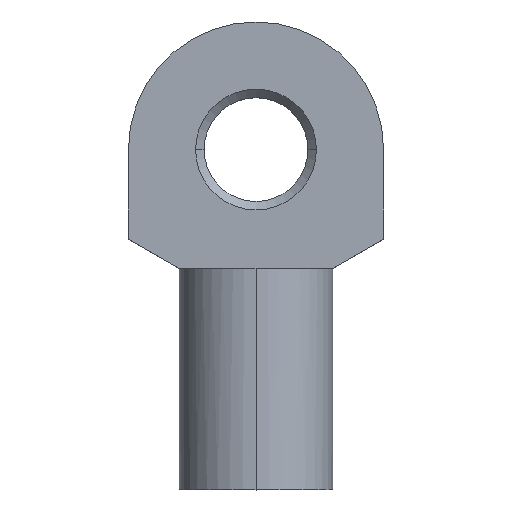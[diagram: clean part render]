
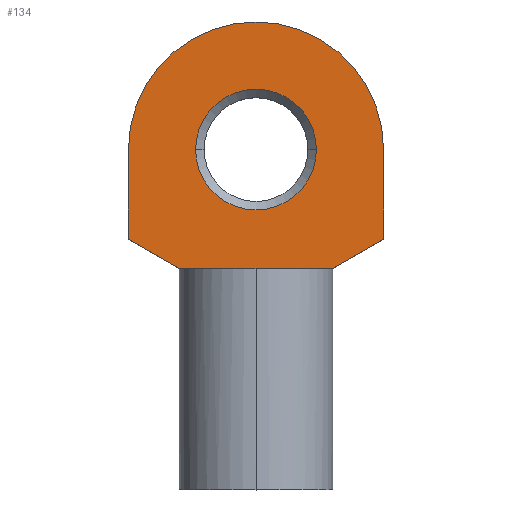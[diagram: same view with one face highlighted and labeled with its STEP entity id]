
A CAD part, top view. The second image highlights one B-rep face of the part: STEP entity #134.
In plain terms, the highlighted planar face has unit normal (0, 0, 1).
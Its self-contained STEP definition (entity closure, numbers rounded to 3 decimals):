
#4 = VERTEX_POINT ( 'NONE', #87 ) ;
#41 = ORIENTED_EDGE ( 'NONE', *, *, #571, .T. ) ;
#43 = ORIENTED_EDGE ( 'NONE', *, *, #133, .T. ) ;
#47 = EDGE_CURVE ( 'NONE', #513, #393, #314, .T. ) ;
#54 = DIRECTION ( 'NONE',  ( 1., 0., 0. ) ) ;
#76 = EDGE_CURVE ( 'NONE', #281, #513, #676, .T. ) ;
#87 = CARTESIAN_POINT ( 'NONE',  ( 3.55, 20., 1.5 ) ) ;
#89 = DIRECTION ( 'NONE',  ( 0., 0., 1. ) ) ;
#92 = DIRECTION ( 'NONE',  ( 0., 0., -1. ) ) ;
#114 = CARTESIAN_POINT ( 'NONE',  ( 0., 20., 1.5 ) ) ;
#131 = VERTEX_POINT ( 'NONE', #215 ) ;
#133 = EDGE_CURVE ( 'NONE', #678, #131, #807, .T. ) ;
#134 = ADVANCED_FACE ( 'NONE', ( #456, #357 ), #218, .T. ) ;
#136 = CARTESIAN_POINT ( 'NONE',  ( -7.5, 20., 1.5 ) ) ;
#149 = VECTOR ( 'NONE', #388, 1000. ) ;
#155 = CARTESIAN_POINT ( 'NONE',  ( -4.5, 13., 1.5 ) ) ;
#170 = AXIS2_PLACEMENT_3D ( 'NONE', #114, #599, #532 ) ;
#176 = EDGE_CURVE ( 'NONE', #230, #281, #510, .T. ) ;
#193 = VECTOR ( 'NONE', #640, 1000. ) ;
#201 = EDGE_CURVE ( 'NONE', #393, #236, #336, .T. ) ;
#215 = CARTESIAN_POINT ( 'NONE',  ( -7.5, 20., 1.5 ) ) ;
#218 = PLANE ( 'NONE',  #496 ) ;
#230 = VERTEX_POINT ( 'NONE', #614 ) ;
#236 = VERTEX_POINT ( 'NONE', #691 ) ;
#265 = DIRECTION ( 'NONE',  ( 1., 0., 0. ) ) ;
#267 = VECTOR ( 'NONE', #507, 1000. ) ;
#270 = EDGE_LOOP ( 'NONE', ( #504, #430 ) ) ;
#272 = DIRECTION ( 'NONE',  ( 0., 0., 1. ) ) ;
#281 = VERTEX_POINT ( 'NONE', #505 ) ;
#290 = ORIENTED_EDGE ( 'NONE', *, *, #303, .T. ) ;
#303 = EDGE_CURVE ( 'NONE', #338, #678, #732, .T. ) ;
#313 = LINE ( 'NONE', #759, #149 ) ;
#314 = LINE ( 'NONE', #706, #193 ) ;
#322 = DIRECTION ( 'NONE',  ( 0., 1., 0. ) ) ;
#336 = LINE ( 'NONE', #736, #636 ) ;
#338 = VERTEX_POINT ( 'NONE', #398 ) ;
#357 = FACE_OUTER_BOUND ( 'NONE', #730, .T. ) ;
#363 = CARTESIAN_POINT ( 'NONE',  ( -3.55, 20., 1.5 ) ) ;
#366 = EDGE_CURVE ( 'NONE', #477, #4, #544, .T. ) ;
#379 = CARTESIAN_POINT ( 'NONE',  ( -4.243, 13., 1.5 ) ) ;
#388 = DIRECTION ( 'NONE',  ( 0.866, 0.5, 0. ) ) ;
#393 = VERTEX_POINT ( 'NONE', #781 ) ;
#397 = CARTESIAN_POINT ( 'NONE',  ( 0., 20., 1.5 ) ) ;
#398 = CARTESIAN_POINT ( 'NONE',  ( 7.5, 14.732, 1.5 ) ) ;
#406 = CARTESIAN_POINT ( 'NONE',  ( 0., 20., 1.5 ) ) ;
#415 = DIRECTION ( 'NONE',  ( 1., 0., 0. ) ) ;
#430 = ORIENTED_EDGE ( 'NONE', *, *, #366, .T. ) ;
#446 = ORIENTED_EDGE ( 'NONE', *, *, #47, .T. ) ;
#456 = FACE_BOUND ( 'NONE', #270, .T. ) ;
#461 = VECTOR ( 'NONE', #265, 1000. ) ;
#465 = AXIS2_PLACEMENT_3D ( 'NONE', #406, #92, #584 ) ;
#477 = VERTEX_POINT ( 'NONE', #363 ) ;
#493 = ORIENTED_EDGE ( 'NONE', *, *, #616, .T. ) ;
#496 = AXIS2_PLACEMENT_3D ( 'NONE', #727, #272, #415 ) ;
#504 = ORIENTED_EDGE ( 'NONE', *, *, #761, .T. ) ;
#505 = CARTESIAN_POINT ( 'NONE',  ( -4.5, 13., 1.5 ) ) ;
#507 = DIRECTION ( 'NONE',  ( 0.866, -0.5, 0. ) ) ;
#510 = LINE ( 'NONE', #632, #267 ) ;
#513 = VERTEX_POINT ( 'NONE', #379 ) ;
#532 = DIRECTION ( 'NONE',  ( 1., 0., 0. ) ) ;
#544 = CIRCLE ( 'NONE', #465, 3.55 ) ;
#571 = EDGE_CURVE ( 'NONE', #131, #230, #575, .T. ) ;
#575 = LINE ( 'NONE', #136, #725 ) ;
#584 = DIRECTION ( 'NONE',  ( 1., 0., 0. ) ) ;
#598 = VECTOR ( 'NONE', #322, 1000. ) ;
#599 = DIRECTION ( 'NONE',  ( 0., 0., -1. ) ) ;
#614 = CARTESIAN_POINT ( 'NONE',  ( -7.5, 14.732, 1.5 ) ) ;
#616 = EDGE_CURVE ( 'NONE', #236, #338, #313, .T. ) ;
#631 = DIRECTION ( 'NONE',  ( 0., -1., 0. ) ) ;
#632 = CARTESIAN_POINT ( 'NONE',  ( -7.5, 14.732, 1.5 ) ) ;
#635 = CARTESIAN_POINT ( 'NONE',  ( 7.5, 20., 1.5 ) ) ;
#636 = VECTOR ( 'NONE', #54, 1000. ) ;
#640 = DIRECTION ( 'NONE',  ( 1., 0., 0. ) ) ;
#644 = CIRCLE ( 'NONE', #170, 3.55 ) ;
#650 = DIRECTION ( 'NONE',  ( 1., 0., 0. ) ) ;
#657 = ORIENTED_EDGE ( 'NONE', *, *, #176, .T. ) ;
#676 = LINE ( 'NONE', #155, #461 ) ;
#678 = VERTEX_POINT ( 'NONE', #635 ) ;
#691 = CARTESIAN_POINT ( 'NONE',  ( 4.5, 13., 1.5 ) ) ;
#696 = CARTESIAN_POINT ( 'NONE',  ( 7.5, 14.732, 1.5 ) ) ;
#706 = CARTESIAN_POINT ( 'NONE',  ( -4.5, 13., 1.5 ) ) ;
#719 = ORIENTED_EDGE ( 'NONE', *, *, #76, .T. ) ;
#725 = VECTOR ( 'NONE', #631, 1000. ) ;
#727 = CARTESIAN_POINT ( 'NONE',  ( 0., 20., 1.5 ) ) ;
#730 = EDGE_LOOP ( 'NONE', ( #43, #41, #657, #719, #446, #811, #493, #290 ) ) ;
#732 = LINE ( 'NONE', #696, #598 ) ;
#734 = AXIS2_PLACEMENT_3D ( 'NONE', #397, #89, #650 ) ;
#736 = CARTESIAN_POINT ( 'NONE',  ( -4.5, 13., 1.5 ) ) ;
#759 = CARTESIAN_POINT ( 'NONE',  ( 4.5, 13., 1.5 ) ) ;
#761 = EDGE_CURVE ( 'NONE', #4, #477, #644, .T. ) ;
#781 = CARTESIAN_POINT ( 'NONE',  ( 4.243, 13., 1.5 ) ) ;
#807 = CIRCLE ( 'NONE', #734, 7.5 ) ;
#811 = ORIENTED_EDGE ( 'NONE', *, *, #201, .T. ) ;
